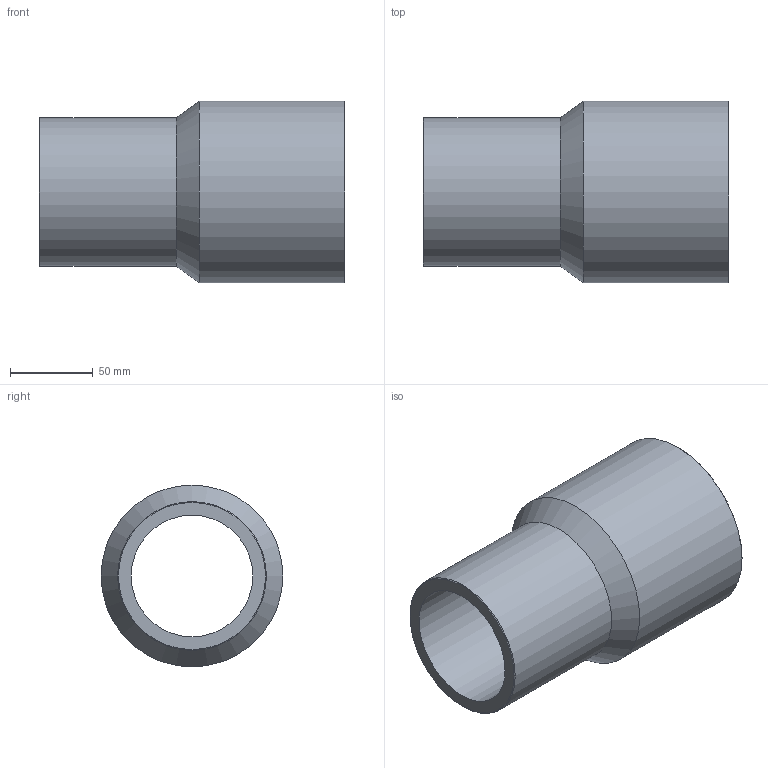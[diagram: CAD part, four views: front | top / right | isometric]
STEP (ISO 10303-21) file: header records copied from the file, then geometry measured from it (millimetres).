
FILE_DESCRIPTION(/* description */ ('Unknown'),/* implementation_level */ '2;1');
FILE_NAME(/* name */ 'RP110090C',/* time_stamp */ '2021-09-17T15:12:06+02:00',/* author */ ('Unknown'),/* organization */ ('Unknown'),/* preprocessor_version */ 'ST-DEVELOPER v16.7',/* originating_system */ 'Solid Edge',/* authorisation */ 'Unknown');
FILE_SCHEMA (('AUTOMOTIVE_DESIGN {1 0 10303 214 3 1 1}'));
Length unit declared in the file: millimetre
Products named in the file (1): RP110090C
Bounding box: 185 x 110 x 110 mm (x, y, z)
Volume: 503766.2 mm3; surface area: 112066.9 mm2
Topology: 1 solids, 1 shells, 10 faces, 19 edges, 11 vertices
Faces by surface type: cylinder 4, cone 4, plane 2
Full cylindrical faces by diameter (mm): 73.6 x1, 90 x2, 110 x1
Entity records: 238 total; most frequent: DIRECTION 42, CARTESIAN_POINT 31, AXIS2_PLACEMENT_3D 21, ORIENTED_EDGE 20, EDGE_LOOP 20, FACE_BOUND 20, EDGE_CURVE 10, VERTEX_POINT 10
